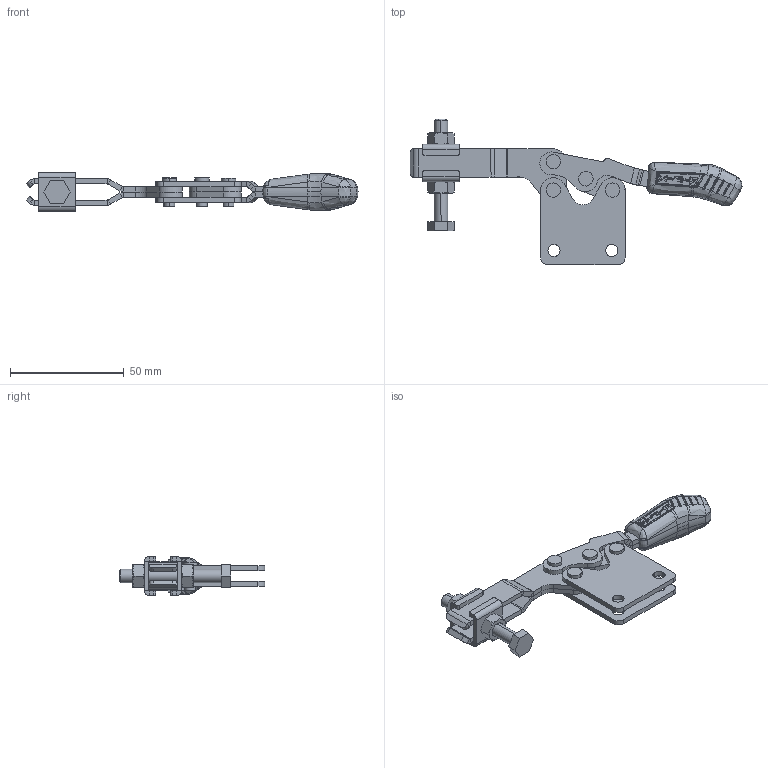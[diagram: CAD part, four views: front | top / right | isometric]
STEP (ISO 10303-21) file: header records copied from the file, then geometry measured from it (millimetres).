
FILE_DESCRIPTION (( 'STEP AP203' ), '1' );
FILE_NAME ('KF-512 R.STEP', '2014-08-18T12:37:12', ( 'Ricardo' ), ( '' ), 'SwSTEP 2.0', 'SolidWorks 2013', '' );
FILE_SCHEMA (( 'CONFIG_CONTROL_DESIGN' ));
Length unit declared in the file: millimetre
Products named in the file (12): 06.50035; 14.10004; 12.50002; 02.11049_Direita; 11.50001; 01.10132_Direita; 07.60004; 01.10132_Esquerda; KF-512 R; 03.13021_Direita; 03.13021_Esquerda; 08.10040
Assembly tree (18 placements, depth 2):
  KF-512 R
    02.11049_Direita  x2
    01.10132_Direita
    01.10132_Esquerda
    03.13021_Direita
    03.13021_Esquerda
    08.10040  x2
    06.50035  x4
    14.10004  x2
    12.50002
    11.50001  x2
    07.60004
Bounding box: 145.73 x 63.89 x 17 mm (x, y, z)
Volume: 23503.1 mm3; surface area: 22940.3 mm2
Topology: 18 solids, 18 shells, 1073 faces, 2638 edges, 1590 vertices
Faces by surface type: cylinder 392, plane 316, bspline 264, sphere 52, cone 46, torus 3
Entity records: 34052 total; most frequent: CARTESIAN_POINT 12624, ORIENTED_EDGE 4676, DIRECTION 3559, EDGE_CURVE 2338, VERTEX_POINT 1415, AXIS2_PLACEMENT_3D 1383, EDGE_LOOP 999, ADVANCED_FACE 956
